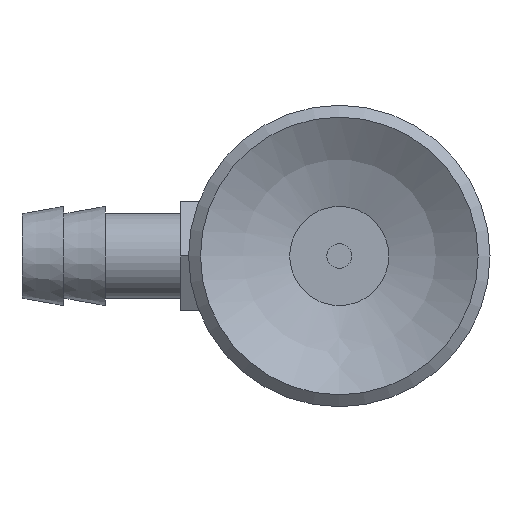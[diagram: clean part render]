
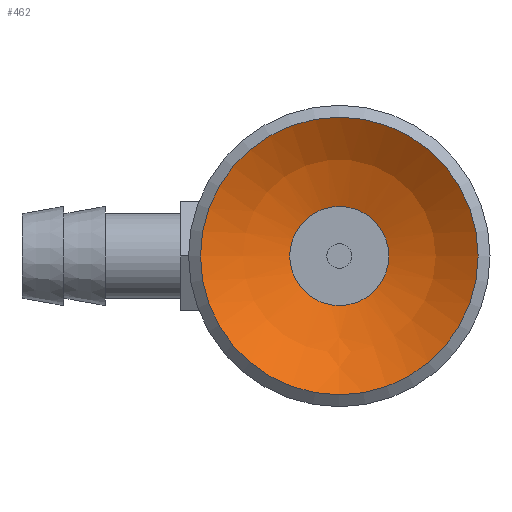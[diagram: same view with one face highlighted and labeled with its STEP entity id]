
A CAD part, front view. The second image highlights one B-rep face of the part: STEP entity #462.
In plain terms, the highlighted spherical face has radius 11.5 mm.
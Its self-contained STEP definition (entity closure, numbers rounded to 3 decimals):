
#462=ADVANCED_FACE('',(#849,#850),#851,.F.);
#849=FACE_OUTER_BOUND('',#1298,.T.);
#850=FACE_OUTER_BOUND('',#1299,.T.);
#851=SPHERICAL_SURFACE('',#1300,11.5);
#1298=EDGE_LOOP('',(#2411));
#1299=EDGE_LOOP('',(#2412));
#1300=AXIS2_PLACEMENT_3D('',#2413,#2414,#2415);
#2411=ORIENTED_EDGE('',*,*,#3023,.T.);
#2412=ORIENTED_EDGE('',*,*,#3022,.F.);
#2413=CARTESIAN_POINT('',(0.001,9.494,-22.735));
#2414=DIRECTION('',(0.0,0.,-1.0));
#2415=DIRECTION('',(1.0,0.0,0.0));
#3022=EDGE_CURVE('',#3624,#3624,#3625,.T.);
#3023=EDGE_CURVE('',#3626,#3626,#3627,.T.);
#3624=VERTEX_POINT('',#4952);
#3625=CIRCLE('',#4953,2.5);
#3626=VERTEX_POINT('',#4954);
#3627=CIRCLE('',#4955,7.0);
#4952=CARTESIAN_POINT('',(0.001,11.994,-11.51));
#4953=AXIS2_PLACEMENT_3D('',#5639,#5640,#5641);
#4954=CARTESIAN_POINT('',(0.001,16.494,-13.611));
#4955=AXIS2_PLACEMENT_3D('',#5642,#5643,#5644);
#5639=CARTESIAN_POINT('',(0.001,9.494,-11.51));
#5640=DIRECTION('',(0.0,0.,-1.0));
#5641=DIRECTION('',(0.0,1.0,0.));
#5642=CARTESIAN_POINT('',(0.001,9.494,-13.611));
#5643=DIRECTION('',(0.0,0.,-1.0));
#5644=DIRECTION('',(0.0,1.0,0.));
